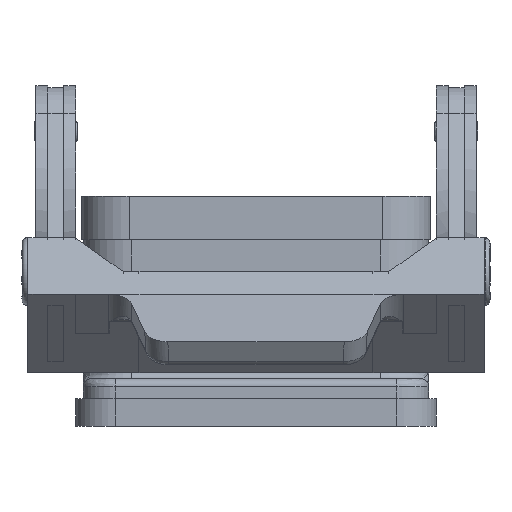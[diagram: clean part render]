
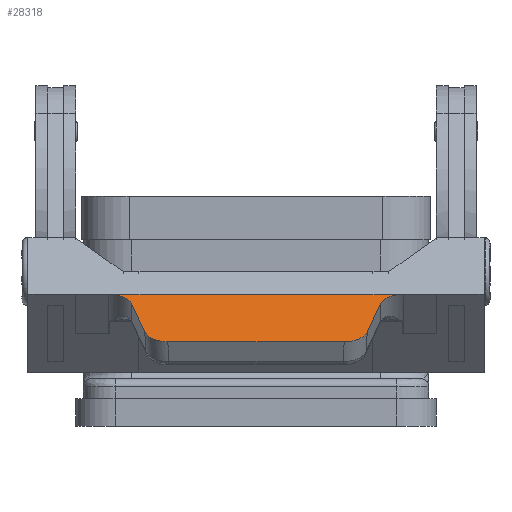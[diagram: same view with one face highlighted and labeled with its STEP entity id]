
A CAD part, left-side view. The second image highlights one B-rep face of the part: STEP entity #28318.
In plain terms, the highlighted planar face has unit normal (-0.559, 0, 0.829).
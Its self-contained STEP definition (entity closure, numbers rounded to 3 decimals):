
#5934 = CARTESIAN_POINT ( 'NONE',  ( -68.012, 15.654, 15.367 ) ) ;
#5935 = DIRECTION ( 'NONE',  ( -0.802, -0.254, -0.541 ) ) ;
#5936 = VECTOR ( 'NONE', #5935, 1000. ) ;
#5937 = CARTESIAN_POINT ( 'NONE',  ( -68.012, 15.654, 15.367 ) ) ;
#5938 = LINE ( 'NONE', #5937, #5936 ) ;
#5954 = CARTESIAN_POINT ( 'NONE',  ( -68.012, -15.654, 15.367 ) ) ;
#6052 = DIRECTION ( 'NONE',  ( 0., -1., 0. ) ) ;
#6053 = VECTOR ( 'NONE', #6052, 1000. ) ;
#6054 = CARTESIAN_POINT ( 'NONE',  ( -74.995, 0., 10.657 ) ) ;
#6055 = LINE ( 'NONE', #6054, #6053 ) ;
#6109 = CARTESIAN_POINT ( 'NONE',  ( -74.995, -11.122, 10.657 ) ) ;
#6151 = CARTESIAN_POINT ( 'NONE',  ( -73.14, -14.027, 11.909 ) ) ;
#6152 = DIRECTION ( 'NONE',  ( 0.802, -0.254, 0.541 ) ) ;
#6153 = VECTOR ( 'NONE', #6152, 1000. ) ;
#6154 = CARTESIAN_POINT ( 'NONE',  ( -73.14, -14.027, 11.909 ) ) ;
#6155 = LINE ( 'NONE', #6154, #6153 ) ;
#6156 = CARTESIAN_POINT ( 'NONE',  ( -74.995, 11.122, 10.657 ) ) ;
#6157 = CARTESIAN_POINT ( 'NONE',  ( -74.995, 12.542, 10.657 ) ) ;
#6158 = CARTESIAN_POINT ( 'NONE',  ( -74.277, 13.667, 11.142 ) ) ;
#6159 = CARTESIAN_POINT ( 'NONE',  ( -73.14, 14.027, 11.909 ) ) ;
#6160 =( BOUNDED_CURVE ( )  B_SPLINE_CURVE ( 3, ( #6159, #6158, #6157, #6156 ),
 .UNSPECIFIED., .F., .T. ) 
 B_SPLINE_CURVE_WITH_KNOTS ( ( 4, 4 ),
 ( 3.398, 4.712 ),
 .UNSPECIFIED. ) 
 CURVE ( )  GEOMETRIC_REPRESENTATION_ITEM ( )  RATIONAL_B_SPLINE_CURVE ( ( 1., 0.861, 0.861, 1. ) ) 
 REPRESENTATION_ITEM ( '' )  );
#6161 = CARTESIAN_POINT ( 'NONE',  ( -74.995, 11.122, 10.657 ) ) ;
#6172 = CARTESIAN_POINT ( 'NONE',  ( -73.14, 14.027, 11.909 ) ) ;
#6969 = CARTESIAN_POINT ( 'NONE',  ( -73.14, -14.027, 11.909 ) ) ;
#6970 = CARTESIAN_POINT ( 'NONE',  ( -74.277, -13.667, 11.142 ) ) ;
#6971 = CARTESIAN_POINT ( 'NONE',  ( -74.995, -12.542, 10.657 ) ) ;
#6972 = CARTESIAN_POINT ( 'NONE',  ( -74.995, -11.122, 10.657 ) ) ;
#6974 =( BOUNDED_CURVE ( )  B_SPLINE_CURVE ( 3, ( #6972, #6971, #6970, #6969 ),
 .UNSPECIFIED., .F., .T. ) 
 B_SPLINE_CURVE_WITH_KNOTS ( ( 4, 4 ),
 ( 4.712, 6.026 ),
 .UNSPECIFIED. ) 
 CURVE ( )  GEOMETRIC_REPRESENTATION_ITEM ( )  RATIONAL_B_SPLINE_CURVE ( ( 1., 0.861, 0.861, 1. ) ) 
 REPRESENTATION_ITEM ( '' )  );
#8479 = LINE ( 'NONE', #8527, #8526 ) ;
#8480 = CARTESIAN_POINT ( 'NONE',  ( -66.135, -18.457, 16.633 ) ) ;
#8481 =( BOUNDED_CURVE ( )  B_SPLINE_CURVE ( 3, ( #8531, #8530, #8529, #8528 ),
 .UNSPECIFIED., .F., .T. ) 
 B_SPLINE_CURVE_WITH_KNOTS ( ( 4, 4 ),
 ( 1.833, 3.11 ),
 .UNSPECIFIED. ) 
 CURVE ( )  GEOMETRIC_REPRESENTATION_ITEM ( )  RATIONAL_B_SPLINE_CURVE ( ( 1., 0.869, 0.869, 1. ) ) 
 REPRESENTATION_ITEM ( '' )  );
#8524 = CARTESIAN_POINT ( 'NONE',  ( -66.135, -14.75, 16.633 ) ) ;
#8525 = DIRECTION ( 'NONE',  ( 0., -1., 0. ) ) ;
#8526 = VECTOR ( 'NONE', #8525, 1000. ) ;
#8527 = CARTESIAN_POINT ( 'NONE',  ( -66.135, -16.603, 16.633 ) ) ;
#8528 = CARTESIAN_POINT ( 'NONE',  ( -66.135, -18.457, 16.633 ) ) ;
#8529 = CARTESIAN_POINT ( 'NONE',  ( -66.172, -17.085, 16.608 ) ) ;
#8530 = CARTESIAN_POINT ( 'NONE',  ( -66.892, -16.009, 16.123 ) ) ;
#8531 = CARTESIAN_POINT ( 'NONE',  ( -68.012, -15.654, 15.367 ) ) ;
#8595 = CARTESIAN_POINT ( 'NONE',  ( -66.134, -14.75, 16.634 ) ) ;
#8596 = DIRECTION ( 'NONE',  ( -0.829, 0., -0.559 ) ) ;
#8597 = VECTOR ( 'NONE', #8596, 1000. ) ;
#8598 = CARTESIAN_POINT ( 'NONE',  ( -66.134, -14.75, 16.634 ) ) ;
#8599 = LINE ( 'NONE', #8598, #8597 ) ;
#8627 = CARTESIAN_POINT ( 'NONE',  ( -68.012, 15.654, 15.367 ) ) ;
#8628 = CARTESIAN_POINT ( 'NONE',  ( -66.892, 16.009, 16.123 ) ) ;
#8629 = CARTESIAN_POINT ( 'NONE',  ( -66.172, 17.085, 16.608 ) ) ;
#8630 = CARTESIAN_POINT ( 'NONE',  ( -66.135, 18.457, 16.633 ) ) ;
#8631 =( BOUNDED_CURVE ( )  B_SPLINE_CURVE ( 3, ( #8630, #8629, #8628, #8627 ),
 .UNSPECIFIED., .F., .T. ) 
 B_SPLINE_CURVE_WITH_KNOTS ( ( 4, 4 ),
 ( 3.173, 4.451 ),
 .UNSPECIFIED. ) 
 CURVE ( )  GEOMETRIC_REPRESENTATION_ITEM ( )  RATIONAL_B_SPLINE_CURVE ( ( 1., 0.869, 0.869, 1. ) ) 
 REPRESENTATION_ITEM ( '' )  );
#8632 = CARTESIAN_POINT ( 'NONE',  ( -66.135, 18.457, 16.633 ) ) ;
#8633 = DIRECTION ( 'NONE',  ( 0., -1., 0. ) ) ;
#8634 = VECTOR ( 'NONE', #8633, 1000. ) ;
#8635 = CARTESIAN_POINT ( 'NONE',  ( -66.135, 28.75, 16.633 ) ) ;
#8636 = LINE ( 'NONE', #8635, #8634 ) ;
#8637 = CARTESIAN_POINT ( 'NONE',  ( -66.135, 14.75, 16.633 ) ) ;
#8638 = DIRECTION ( 'NONE',  ( 0.829, 0., 0.559 ) ) ;
#8639 = VECTOR ( 'NONE', #8638, 1000. ) ;
#8640 = CARTESIAN_POINT ( 'NONE',  ( -66.134, 14.75, 16.634 ) ) ;
#8641 = LINE ( 'NONE', #8640, #8639 ) ;
#8642 = CARTESIAN_POINT ( 'NONE',  ( -66.134, 14.75, 16.634 ) ) ;
#8643 = DIRECTION ( 'NONE',  ( 0., -1., 0. ) ) ;
#8644 = VECTOR ( 'NONE', #8643, 1000. ) ;
#8645 = CARTESIAN_POINT ( 'NONE',  ( -66.134, 0., 16.634 ) ) ;
#8646 = LINE ( 'NONE', #8645, #8644 ) ;
#8659 = DIRECTION ( 'NONE',  ( -0.829, 0., -0.559 ) ) ;
#8660 = DIRECTION ( 'NONE',  ( -0.559, 0., 0.829 ) ) ;
#8661 = CARTESIAN_POINT ( 'NONE',  ( -66.134, 18.457, 16.634 ) ) ;
#8662 = AXIS2_PLACEMENT_3D ( 'NONE', #8661, #8660, #8659 ) ;
#8663 = PLANE ( 'NONE',  #8662 ) ;
#8678 = FACE_OUTER_BOUND ( 'NONE', #28319, .T. ) ;
#27556 = EDGE_CURVE ( 'NONE', #27557, #27692, #5938, .T. ) ;
#27557 = VERTEX_POINT ( 'NONE', #5934 ) ;
#27576 = VERTEX_POINT ( 'NONE', #5954 ) ;
#27638 = EDGE_CURVE ( 'NONE', #27660, #27639, #6055, .T. ) ;
#27639 = VERTEX_POINT ( 'NONE', #6109 ) ;
#27660 = VERTEX_POINT ( 'NONE', #6161 ) ;
#27662 = EDGE_CURVE ( 'NONE', #27692, #27660, #6160, .T. ) ;
#27668 = EDGE_CURVE ( 'NONE', #27671, #27576, #6155, .T. ) ;
#27671 = VERTEX_POINT ( 'NONE', #6151 ) ;
#27692 = VERTEX_POINT ( 'NONE', #6172 ) ;
#27749 = EDGE_CURVE ( 'NONE', #27639, #27671, #6974, .T. ) ;
#28178 = ORIENTED_EDGE ( 'NONE', *, *, #27668, .T. ) ;
#28179 = ORIENTED_EDGE ( 'NONE', *, *, #28181, .T. ) ;
#28181 = EDGE_CURVE ( 'NONE', #27576, #28182, #8481, .T. ) ;
#28182 = VERTEX_POINT ( 'NONE', #8480 ) ;
#28183 = ORIENTED_EDGE ( 'NONE', *, *, #28184, .F. ) ;
#28184 = EDGE_CURVE ( 'NONE', #28186, #28182, #8479, .T. ) ;
#28186 = VERTEX_POINT ( 'NONE', #8524 ) ;
#28265 = ORIENTED_EDGE ( 'NONE', *, *, #27556, .T. ) ;
#28267 = ORIENTED_EDGE ( 'NONE', *, *, #27662, .T. ) ;
#28293 = ORIENTED_EDGE ( 'NONE', *, *, #28294, .F. ) ;
#28294 = EDGE_CURVE ( 'NONE', #28297, #28186, #8599, .T. ) ;
#28297 = VERTEX_POINT ( 'NONE', #8595 ) ;
#28299 = ORIENTED_EDGE ( 'NONE', *, *, #28300, .F. ) ;
#28300 = EDGE_CURVE ( 'NONE', #28301, #28297, #8646, .T. ) ;
#28301 = VERTEX_POINT ( 'NONE', #8642 ) ;
#28303 = ORIENTED_EDGE ( 'NONE', *, *, #28305, .F. ) ;
#28305 = EDGE_CURVE ( 'NONE', #28308, #28301, #8641, .T. ) ;
#28308 = VERTEX_POINT ( 'NONE', #8637 ) ;
#28309 = ORIENTED_EDGE ( 'NONE', *, *, #28310, .F. ) ;
#28310 = EDGE_CURVE ( 'NONE', #28311, #28308, #8636, .T. ) ;
#28311 = VERTEX_POINT ( 'NONE', #8632 ) ;
#28313 = ORIENTED_EDGE ( 'NONE', *, *, #28314, .T. ) ;
#28314 = EDGE_CURVE ( 'NONE', #28311, #27557, #8631, .T. ) ;
#28318 = ADVANCED_FACE ( 'NONE', ( #8678 ), #8663, .T. ) ;
#28319 = EDGE_LOOP ( 'NONE', ( #28320, #28321, #28178, #28179, #28183, #28293, #28299, #28303, #28309, #28313, #28265, #28267 ) ) ;
#28320 = ORIENTED_EDGE ( 'NONE', *, *, #27638, .T. ) ;
#28321 = ORIENTED_EDGE ( 'NONE', *, *, #27749, .T. ) ;
